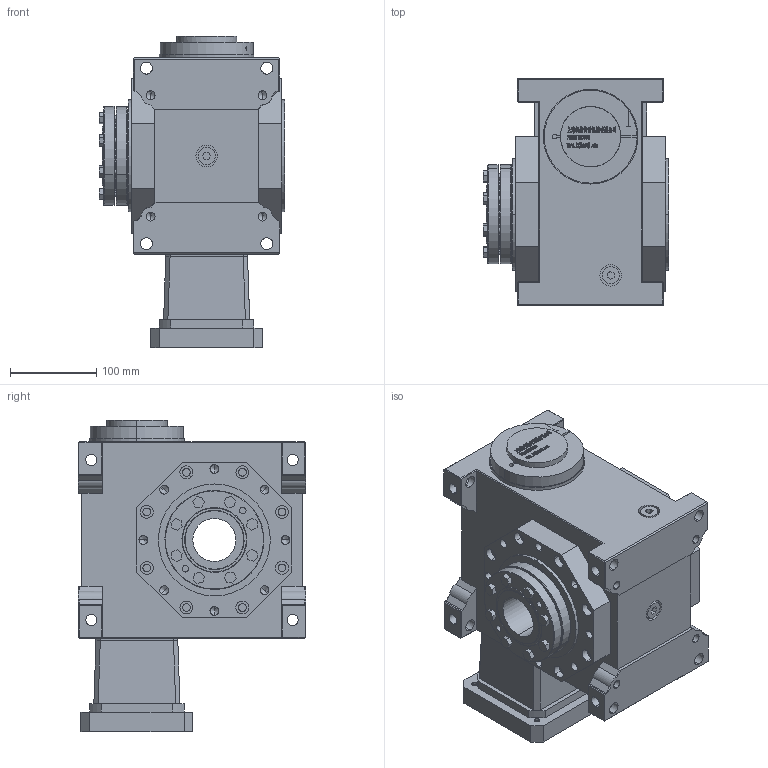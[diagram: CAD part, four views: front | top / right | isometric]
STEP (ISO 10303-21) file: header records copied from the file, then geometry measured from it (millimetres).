
FILE_DESCRIPTION (( 'STEP AP203' ), '1' );
FILE_NAME ('FXLB090-(5~90)-C2-22-110-145-M8.step', '2022-11-05T14:12:07', ( '' ), ( '' ), 'SwSTEP 2.0', 'SolidWorks 2020', '' );
FILE_SCHEMA (( 'CONFIG_CONTROL_DESIGN' ));
Length unit declared in the file: millimetre
Products named in the file (9): ST130-110-145-M8____________.step; FXLB090-(5~90)-C2-22-110-145-M8; JDLB090-ST110________1.step; FXLB090-(5~90)-C2-22-110-145-M8.step; JDLB090-C1________50.step; ______BD68-73.3-24-22____.step; JDLB090-C1______-68-115-28.step; 錨璃27^FXLB090-(5~90)-C2-22-110-145-M8; JDLB090-CR____.step
Assembly tree (8 placements, depth 3):
  FXLB090-(5~90)-C2-22-110-145-M8
    FXLB090-(5~90)-C2-22-110-145-M8.step
      JDLB090-CR____.step
      JDLB090-C1________50.step
      JDLB090-ST110________1.step
      ST130-110-145-M8____________.step
      ______BD68-73.3-24-22____.step
      JDLB090-C1______-68-115-28.step
    錨璃27^FXLB090-(5~90)-C2-22-110-145-M8
Bounding box: 216 x 264 x 362.2 mm (x, y, z)
Volume: 9790258.8 mm3; surface area: 762228.5 mm2
Topology: 84 solids, 84 shells, 2723 faces, 7127 edges, 4647 vertices
Faces by surface type: plane 1586, bspline 570, cylinder 431, cone 104, torus 32
Entity records: 110031 total; most frequent: CARTESIAN_POINT 45428, ORIENTED_EDGE 14114, DIRECTION 11189, EDGE_CURVE 7057, VECTOR 4837, LINE 4837, VERTEX_POINT 4647, AXIS2_PLACEMENT_3D 3176
